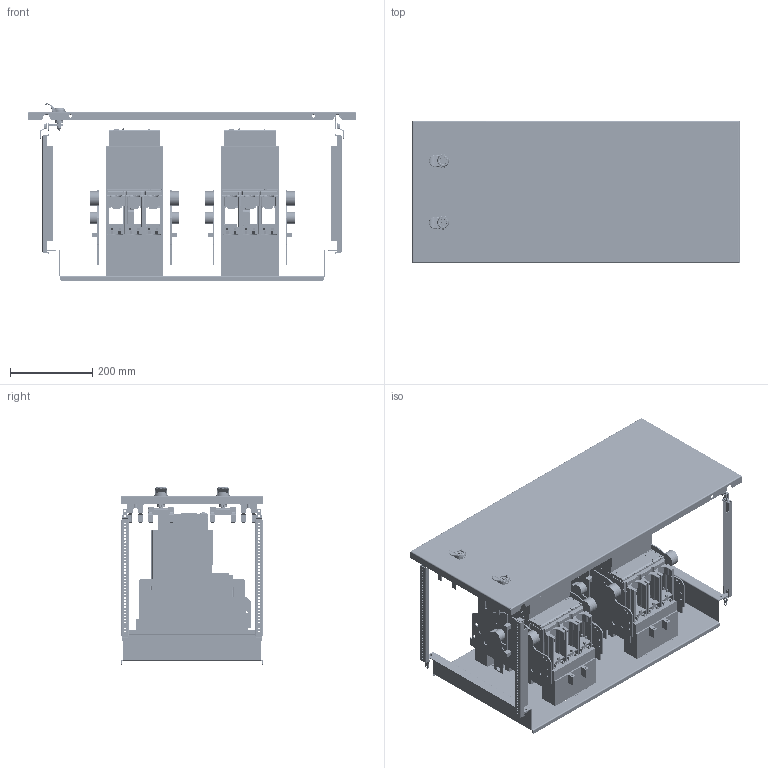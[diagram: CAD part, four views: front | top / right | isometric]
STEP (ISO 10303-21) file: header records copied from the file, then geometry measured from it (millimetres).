
FILE_DESCRIPTION(('CAx-IF Rec.Pracs.---Model Styling and Organization---1.2---2011-12-15','CAx-IF Rec.Pracs.---Geometric and Assembly Validation Properties---4.1---2014-06-16','CAx-IF Rec.Pracs.---PMI Polyline Presentation---2.0---2013-05-24'),'2;1');
FILE_NAME('R5PKEB7V81616.stp','2021-07-29T02:52:50+03:00',(''),(''),'STEP Interface 4.4 by CT CoreTechnologie','3D_Evolution4.4 by CT CoreTechnologie','');
FILE_SCHEMA(('AUTOMOTIVE_DESIGN { 1 0 10303 214 1 1 1 1 }'));
Length unit declared in the file: millimetre
Products named in the file (1): R5PKEB7V81616 (W-MO)
Bounding box: 794 x 345 x 430.24 mm (x, y, z)
Surface area: 3788082.6 mm2 (no closed solid volume)
Topology: 0 solids, 172 shells, 11872 faces, 34691 edges, 22982 vertices
Faces by surface type: plane 7199, cylinder 3638, bspline 1035
Entity records: 413259 total; most frequent: CARTESIAN_POINT 94771, ORIENTED_EDGE 69154, DIRECTION 63857, EDGE_CURVE 34587, VECTOR 25477, LINE 25477, VERTEX_POINT 23026, AXIS2_PLACEMENT_3D 19190
